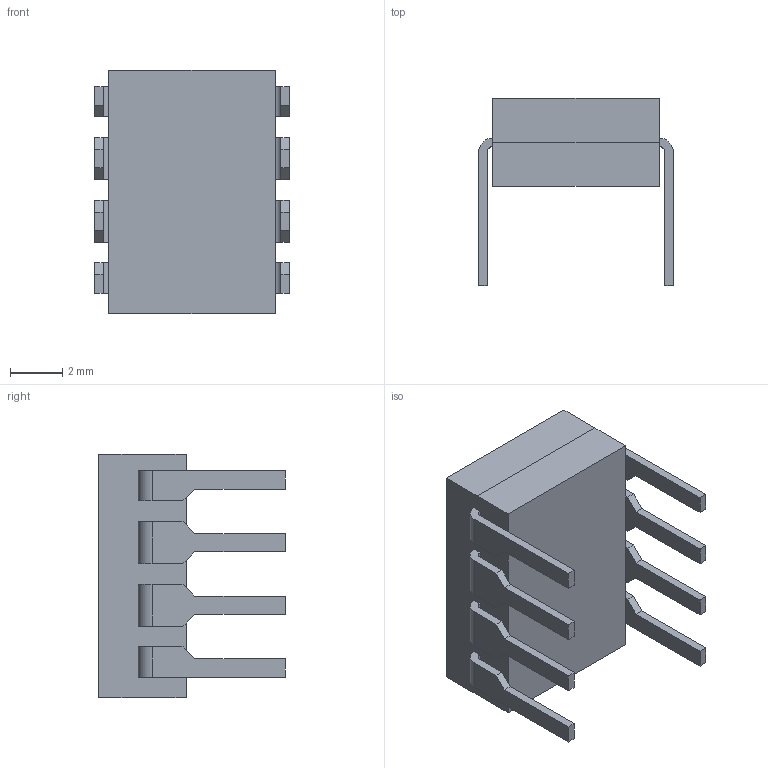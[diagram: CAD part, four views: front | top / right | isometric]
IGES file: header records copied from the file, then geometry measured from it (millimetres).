
Start section: -==*** IGES character data file generated with Crossing utility ***==-
Global section: file name: OP-AMP.grb; native system: Unknown; preprocessor: Unknown; author: Unknown; organization: Unknown; date: 120505.125820; units: millimetre
Bounding box: 7.41 x 7.12 x 9.28 mm (x, y, z)
Volume: 208.6 mm3; surface area: 343.8 mm2
Topology: 9 solids, 9 shells, 101 faces, 246 edges, 164 vertices
Faces by surface type: plane 82, bspline 19
